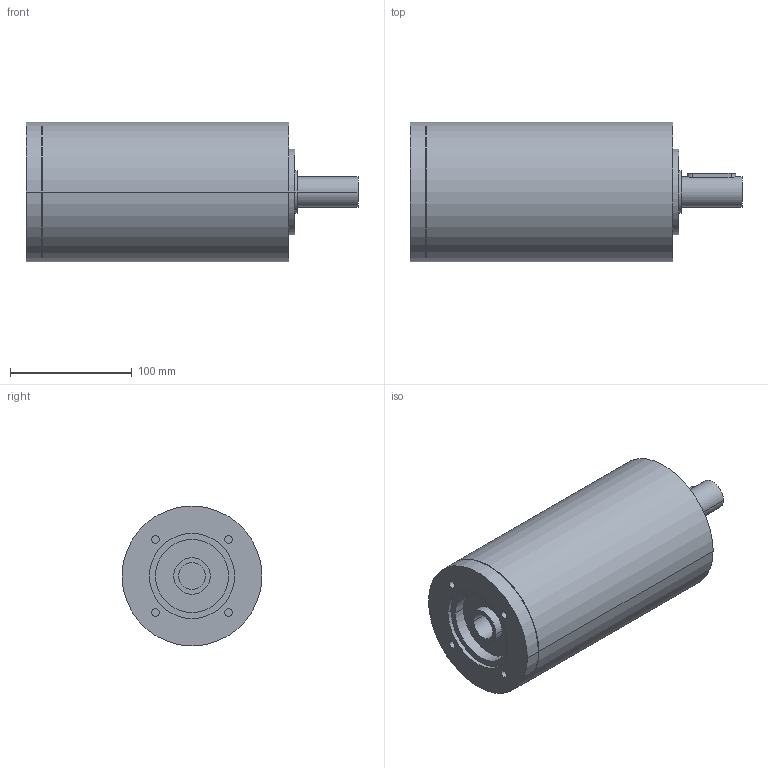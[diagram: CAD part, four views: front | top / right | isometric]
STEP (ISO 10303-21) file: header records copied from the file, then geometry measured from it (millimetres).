
FILE_DESCRIPTION(('CoCreate Modeling STEP Export'),'2;1');
FILE_NAME('GPR125_ig-48-64-80-100-140-196-245-343_25_B14_22_P03.stp','2014-08-26T14:22:03',(''),(''),'CoCreate Modeling STEP processor for AP214 (Solid Model)','CoCreate Modeling 16.00C 25-Feb-2009 (C) Parametric Technology GmbH','');
FILE_SCHEMA(('AUTOMOTIVE_DESIGN { 1 0 10303 214 1 1 1 1 }'));
Length unit declared in the file: millimetre
Products named in the file (2): GPR125_ig-48-64-80-100-140-196-245-343_25_B14_22_P03
Assembly tree (1 placements, depth 2):
  GPR125_ig-48-64-80-100-140-196-245-343_25_B14_22_P03
    GPR125_ig-48-64-80-100-140-196-245-343_25_B14_22_P03
Bounding box: 273 x 115 x 115 mm (x, y, z)
Volume: 2225293.8 mm3; surface area: 116074.5 mm2
Topology: 1 solids, 1 shells, 75 faces, 192 edges, 138 vertices
Faces by surface type: cylinder 46, plane 25, cone 4
Entity records: 1935 total; most frequent: ORIENTED_EDGE 380, CARTESIAN_POINT 359, DIRECTION 250, EDGE_CURVE 190, VERTEX_POINT 138, AXIS2_PLACEMENT_3D 97, EDGE_LOOP 96, FACE_OUTER_BOUND 75
